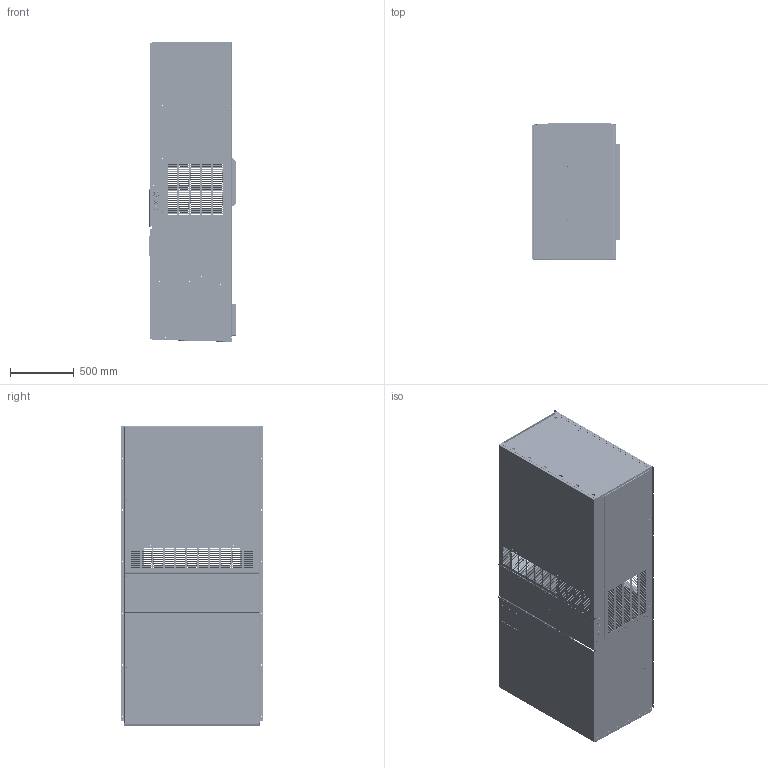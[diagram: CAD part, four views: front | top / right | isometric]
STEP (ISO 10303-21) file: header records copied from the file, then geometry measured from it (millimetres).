
FILE_DESCRIPTION (( 'STEP AP203' ), '1' );
FILE_NAME ('W60-72AC.STEP', '2019-04-22T15:20:03', ( '' ), ( '' ), 'SwSTEP 2.0', 'SolidWorks 2019', '' );
FILE_SCHEMA (( 'CONFIG_CONTROL_DESIGN' ));
Length unit declared in the file: inch
Products named in the file (14): 118-137; 132-310; 142-229; 106-392; 110-298; 108-424; W60-72AC; 108-423; 100-1079; 152-724; 100-1078; 114-331; 118-138; 126-584
Assembly tree (15 placements, depth 2):
  W60-72AC
    126-584
    108-424
    114-331
    152-724
    110-298  x2
    118-137
    118-138  x2
    100-1079
    106-392
    108-423
    132-310
    100-1078
    142-229
Bounding box: 696.53 x 1111.92 x 2359.45 mm (x, y, z)
Volume: 9735866.6 mm3; surface area: 20708991.7 mm2
Topology: 287 solids, 287 shells, 8642 faces, 22389 edges, 14324 vertices
Faces by surface type: plane 4777, cylinder 2454, torus 1124, cone 226, bspline 45, sphere 16
Entity records: 207517 total; most frequent: DIRECTION 37103, CARTESIAN_POINT 37086, ORIENTED_EDGE 34190, EDGE_CURVE 17095, AXIS2_PLACEMENT_3D 13537, VERTEX_POINT 10848, VECTOR 10029, LINE 10029
